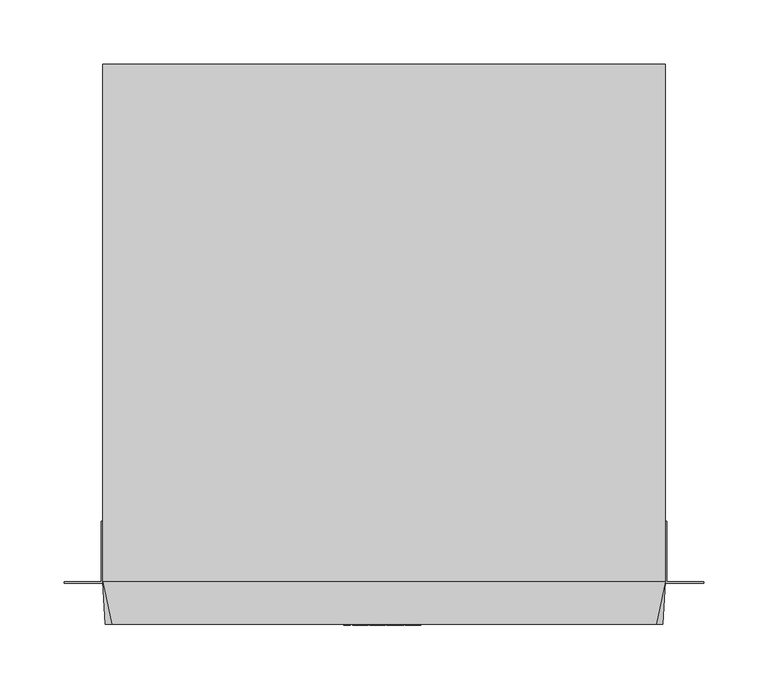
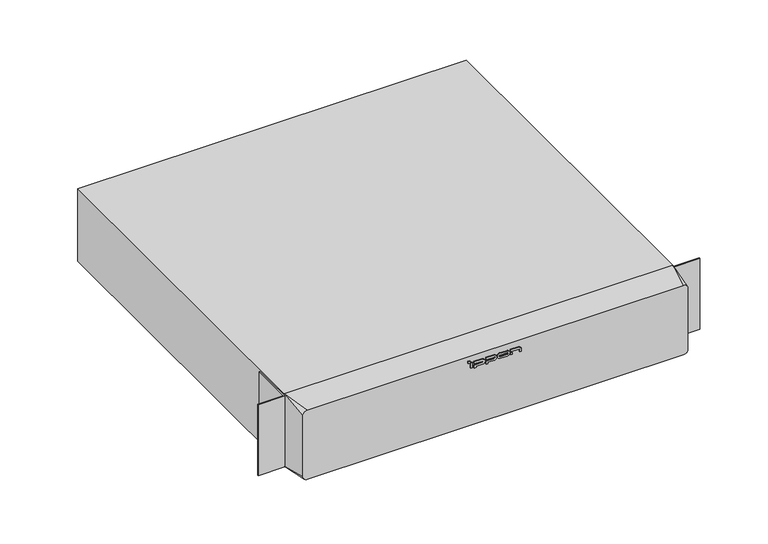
"""IFC4 building model written with IfcOpenShell, lengths in millimetres: proxy geometry, IPPON_ИБП_Smart Winner II Euro_1500ВА : Smart Winner II Euro 1500 ВА."""

from ifc_helpers import new_model, si_unit, point, frame, frame_2d, origin, place, context, project, spatial, polyline, circle_curve, trimmed, segment, composite_curve, outline, extrude, source, transform, mapped, element, save
from ifc_brep_helpers import plane_surface, spline_surface, advanced_brep


def electrical_equipment_7b7a9afe(model_context):
    return source(origin(), model_context, "Body", "SolidModel", [
        extrude(outline(polyline([(-29.1718133, -1.0), (-31.1718133, -1.0), (-31.1718133, 0.0), (-29.1718133, 0.0), (-29.1718133, -1.0)])), frame((0.0, 0.0, 78.9695835), z_axis=(0.0, 0.0, 1.0), x_axis=(1.0, 0.0, 0.0)), (0.0, 0.0, 1.0), 2.3),
        extrude(outline(polyline([(18.6035474, -1.0), (16.6035474, -1.0), (16.6035474, 0.0), (18.6035474, 0.0), (18.6035474, -1.0)])), frame((0.0, 0.0, 72.9695835), z_axis=(0.0, 0.0, 1.0), x_axis=(1.0, 0.0, 0.0)), (0.0, 0.0, 1.0), 2.2268231),
        extrude(outline(polyline([(-26.438565, -1.0), (-28.4833324, -1.0), (-28.4833324, 0.0), (-26.438565, 0.0), (-26.438565, -1.0)])), frame((0.0, 0.0, 72.9695835), z_axis=(0.0, 0.0, 1.0), x_axis=(1.0, 0.0, 0.0)), (0.0, 0.0, 1.0), 6.0),
        extrude(outline(composite_curve([segment(polyline([(76.7071435, -24.2241109), (76.7071435, -14.9923536)]), True, "CONTINUOUS"), segment(trimmed(circle_curve(frame_2d((75.8506642, -14.9923536)), 0.8564793), [point((76.7071435, -14.9923536))], [point((74.9941849, -14.9923536))], True, "CARTESIAN"), True, "CONTINUOUS"), segment(polyline([(74.9941849, -14.9923536), (74.9941849, -24.2241109), (71.5036803, -24.2241109), (71.5036803, -22.2241109), (72.9695835, -22.2241109), (72.9695835, -15.1486036)]), True, "CONTINUOUS"), segment(trimmed(circle_curve(frame_2d((75.9695835, -15.1486036)), 3.0), [point((72.9695835, -15.1486036))], [point((78.9695835, -15.1486036))], False, "CARTESIAN"), True, "CONTINUOUS"), segment(polyline([(78.9695835, -15.1486036), (78.9695835, -24.2241109), (76.7071435, -24.2241109)]), True, "CONTINUOUS")], self_intersect=False)), frame((0.0, -1.0, 0.0), z_axis=(0.0, 1.0, 0.0), x_axis=(0.0, 0.0, 1.0)), (0.0, 0.0, 1.0), 1.0),
        extrude(outline(composite_curve([segment(polyline([(76.7071435, -11.0171091), (76.7071435, -1.7853518)]), True, "CONTINUOUS"), segment(trimmed(circle_curve(frame_2d((75.8506642, -1.7853518)), 0.8564793), [point((76.7071435, -1.7853518))], [point((74.9941849, -1.7853518))], True, "CARTESIAN"), True, "CONTINUOUS"), segment(polyline([(74.9941849, -1.7853518), (74.9941849, -11.0171091), (71.5036803, -11.0171091), (71.5036803, -9.0171091), (72.9695835, -9.0171091), (72.9695835, -1.9416018)]), True, "CONTINUOUS"), segment(trimmed(circle_curve(frame_2d((75.9695835, -1.9416018)), 3.0), [point((72.9695835, -1.9416018))], [point((78.9695835, -1.9416018))], False, "CARTESIAN"), True, "CONTINUOUS"), segment(polyline([(78.9695835, -1.9416018), (78.9695835, -11.0171091), (76.7071435, -11.0171091)]), True, "CONTINUOUS")], self_intersect=False)), frame((0.0, -1.0, 0.0), z_axis=(0.0, 1.0, 0.0), x_axis=(0.0, 0.0, 1.0)), (0.0, 0.0, 1.0), 1.0),
        extrude(outline(composite_curve([segment(trimmed(circle_curve(frame_2d((75.9695835, 12.558657)), 3.0), [point((72.9695835, 12.558657))], [point((78.9695835, 12.558657))], False, "CARTESIAN"), True, "CONTINUOUS"), segment(polyline([(78.9695835, 12.558657), (78.9695835, 4.958657)]), True, "CONTINUOUS"), segment(trimmed(circle_curve(frame_2d((75.9695835, 4.958657)), 3.0), [point((78.9695835, 4.958657))], [point((72.9695835, 4.958657))], False, "CARTESIAN"), True, "CONTINUOUS"), segment(polyline([(72.9695835, 4.958657), (72.9695835, 12.558657)]), True, "CONTINUOUS")], self_intersect=False), holes=[composite_curve([segment(polyline([(74.9941849, 12.714907), (74.9941849, 4.802407)]), True, "CONTINUOUS"), segment(trimmed(circle_curve(frame_2d((75.8506642, 4.802407)), 0.8564793), [point((74.9941849, 4.802407))], [point((76.7071435, 4.802407))], True, "CARTESIAN"), True, "CONTINUOUS"), segment(polyline([(76.7071435, 4.802407), (76.7071435, 12.714907)]), True, "CONTINUOUS"), segment(trimmed(circle_curve(frame_2d((75.8506642, 12.714907)), 0.8564793), [point((76.7071435, 12.714907))], [point((74.9941849, 12.714907))], True, "CARTESIAN"), True, "CONTINUOUS")], self_intersect=False)]), frame((0.0, -1.0, 0.0), z_axis=(0.0, 1.0, 0.0), x_axis=(0.0, 0.0, 1.0)), (0.0, 0.0, 1.0), 1.0),
        extrude(outline(composite_curve([segment(polyline([(76.7071435, 16.6035474), (76.7071435, 25.8353046)]), True, "CONTINUOUS"), segment(trimmed(circle_curve(frame_2d((75.8506642, 25.8353046)), 0.8564793), [point((76.7071435, 25.8353046))], [point((75.8506642, 26.6917839))], True, "CARTESIAN"), True, "CONTINUOUS"), segment(polyline([(75.8506642, 26.6917839), (72.9695835, 26.6917839), (72.9695835, 28.6317921), (76.5, 28.6317921)]), True, "CONTINUOUS"), segment(trimmed(circle_curve(frame_2d((75.9695835, 25.6790546)), 3.0), [point((76.5, 28.6317921))], [point((78.9695835, 25.6790546))], False, "CARTESIAN"), True, "CONTINUOUS"), segment(polyline([(78.9695835, 25.6790546), (78.9695835, 16.6035474), (76.7071435, 16.6035474)]), True, "CONTINUOUS")], self_intersect=False)), frame((0.0, -1.0, 0.0), z_axis=(0.0, 1.0, 0.0), x_axis=(0.0, 0.0, 1.0)), (0.0, 0.0, 1.0), 1.0),
        extrude(outline(polyline([(219.0, 32.0), (219.0, 80.0), (220.0, 80.0), (220.0, 33.0), (249.0, 33.0), (249.0, 32.0), (219.0, 32.0)])), frame((0.0, 0.0, 2.0), z_axis=(0.0, 0.0, 1.0), x_axis=(1.0, 0.0, 0.0)), (0.0, 0.0, 1.0), 84.5),
        extrude(outline(polyline([(-219.0, 32.0), (-249.0, 32.0), (-249.0, 33.0), (-220.0, 33.0), (-220.0, 80.0), (-219.0, 80.0), (-219.0, 32.0)])), frame((0.0, 0.0, 2.0), z_axis=(0.0, 0.0, 1.0), x_axis=(1.0, 0.0, 0.0)), (0.0, 0.0, 1.0), 84.5),
        advanced_brep(
        [(212.0, 0.0, 4.0), (217.0, 0.0, 9.0), (217.0, 0.0, 81.5), (212.0, 0.0, 86.5), (-212.0, 0.0, 86.5), (-217.0, 0.0, 81.5), (-217.0, 0.0, 9.0), (-212.0, 0.0, 4.0), (219.0, 33.0, 2.0), (-219.0, 33.0, 2.0), (-219.0, 33.0, 88.5), (219.0, 33.0, 88.5)],
        [
            (0, 1, circle_curve(frame((212.0, 0.0, 9.0), z_axis=(0.0, -1.0, 0.0), x_axis=(-1.0, 0.0, 0.0)), 5.0)),
            (1, 2),
            (2, 3, circle_curve(frame((212.0, 0.0, 81.5), z_axis=(0.0, -1.0, 0.0), x_axis=(-1.0, 0.0, 0.0)), 5.0)),
            (3, 4),
            (4, 5, circle_curve(frame((-212.0, 0.0, 81.5), z_axis=(0.0, -1.0, 0.0), x_axis=(-1.0, 0.0, 0.0)), 5.0)),
            (5, 6),
            (6, 7, circle_curve(frame((-212.0, 0.0, 9.0), z_axis=(0.0, -1.0, 0.0), x_axis=(-1.0, 0.0, 0.0)), 5.0)),
            (7, 0),
            (8, 9),
            (9, 10),
            (10, 11),
            (11, 8),
            (0, 8),
            (8, 1),
            (7, 9),
            (6, 9),
            (5, 10),
            (4, 10),
            (3, 11),
            (2, 11),
        ],
        [
            plane_surface(frame((0.0, 0.0, 45.25), z_axis=(0.0, -1.0, 0.0), x_axis=(1.0, 0.0, 0.0))),
            plane_surface(frame((0.0, 33.0, 45.25), z_axis=(0.0, 1.0, 0.0), x_axis=(1.0, 0.0, 0.0))),
            spline_surface(2, 1, [[(219.0, 33.0, 2.0), (212.0, 0.0, 4.0)], [(219.0, 33.0, 2.0), (217.0, 0.0, 4.0)], [(219.0, 33.0, 2.0), (217.0, 0.0, 9.0)]], [3, 3], [2, 2], [0.0, 1.0], [0.0, 1.0], weights=[[1.0, 1.0], [0.7071067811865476, 0.7071067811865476], [1.0, 1.0]]),
            plane_surface(frame((0.0, 33.0, 2.0), z_axis=(0.0, -0.060495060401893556, -0.9981684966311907), x_axis=(1.0, 0.0, 0.0))),
            spline_surface(2, 1, [[(-219.0, 33.0, 2.0), (-217.0, 0.0, 9.0)], [(-219.0, 33.0, 2.0), (-217.0, 0.0, 4.0)], [(-219.0, 33.0, 2.0), (-212.0, 0.0, 4.0)]], [3, 3], [2, 2], [0.0, 1.0], [0.0, 1.0], weights=[[1.0, 1.0], [0.7071067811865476, 0.7071067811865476], [1.0, 1.0]]),
            plane_surface(frame((-219.0, 33.0, 45.25), z_axis=(-0.9981684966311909, -0.06049506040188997, 0.0), x_axis=(0.0, 0.0, -1.0))),
            spline_surface(2, 1, [[(-219.0, 33.0, 88.5), (-212.0, 0.0, 86.5)], [(-219.0, 33.0, 88.5), (-217.0, 0.0, 86.5)], [(-219.0, 33.0, 88.5), (-217.0, 0.0, 81.5)]], [3, 3], [2, 2], [0.0, 1.0], [0.0, 1.0], weights=[[1.0, 1.0], [0.7071067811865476, 0.7071067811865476], [1.0, 1.0]]),
            plane_surface(frame((0.0, 33.0, 88.5), z_axis=(0.0, -0.060495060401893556, 0.9981684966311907), x_axis=(-1.0, 0.0, 0.0))),
            spline_surface(2, 1, [[(219.0, 33.0, 88.5), (217.0, 0.0, 81.5)], [(219.0, 33.0, 88.5), (217.0, 0.0, 86.5)], [(219.0, 33.0, 88.5), (212.0, 0.0, 86.5)]], [3, 3], [2, 2], [0.0, 1.0], [0.0, 1.0], weights=[[1.0, 1.0], [0.7071067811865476, 0.7071067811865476], [1.0, 1.0]]),
            plane_surface(frame((219.0, 33.0, 45.25), z_axis=(0.9981684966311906, -0.06049506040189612, 0.0), x_axis=(0.0, 0.0, 1.0))),
        ],
        [
            (0, [[1, 2, 3, 4, 5, 6, 7, 8]]),
            (1, [[9, 10, 11, 12]]),
            (2, [[-1, 13, 14]]),
            (3, [[-9, -13, -8, 15]]),
            (4, [[-7, 16, -15]]),
            (5, [[-10, -16, -6, 17]]),
            (6, [[-5, 18, -17]]),
            (7, [[-11, -18, -4, 19]]),
            (8, [[-3, 20, -19]]),
            (9, [[-12, -20, -2, -14]]),
        ],
    ),
        extrude(outline(polyline([(219.0, 33.0), (-219.0, 33.0), (-219.0, 436.0), (219.0, 436.0), (219.0, 33.0)])), frame((0.0, 0.0, 2.0), z_axis=(0.0, 0.0, 1.0), x_axis=(1.0, 0.0, 0.0)), (0.0, 0.0, 1.0), 86.5),
    ])


if __name__ == "__main__":
    model = new_model("IFC4")
    model_context = context("Model", 3, world=origin())
    ifc_project = project(units=[si_unit("LENGTHUNIT", "METRE", prefix="MILLI")], contexts=[model_context])
    site = spatial("IfcSite", under=ifc_project)
    building = spatial("IfcBuilding", under=site)
    placement = place(None, origin())
    electrical_equipment_shape = electrical_equipment_7b7a9afe(model_context)
    element("IfcBuildingElementProxy", 1, Name="IPPON_ИБП_Smart Winner II Euro_1500ВА : Smart Winner II Euro 1500 ВА", ObjectType="IPPON_ИБП_Smart Winner II Euro_1500ВА : Smart Winner II Euro 1500 ВА", at=placement, inside=building, context=model_context, shape_type="MappedRepresentation", body=[
        mapped(electrical_equipment_shape, transform((0.0, 0.0, 0.0), x_axis=(1.0, 0.0, 0.0), y_axis=(0.0, 1.0, 0.0), z_axis=(0.0, 0.0, 1.0))),
    ])
    save(model, "model.ifc")
